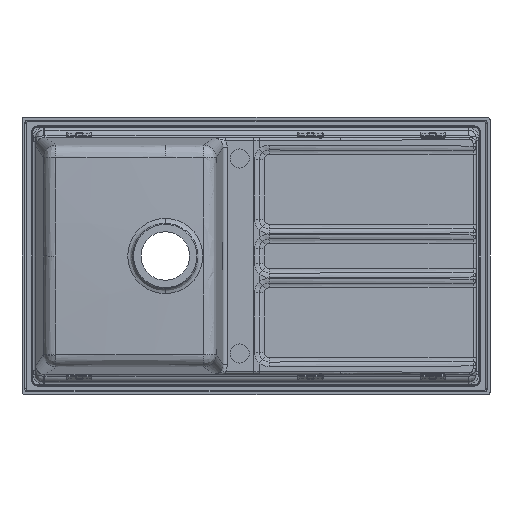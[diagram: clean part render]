
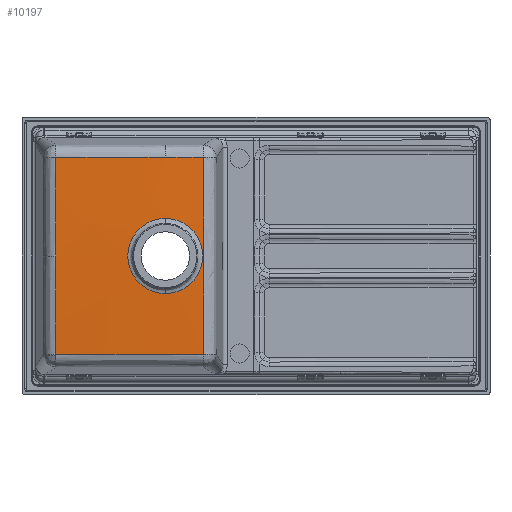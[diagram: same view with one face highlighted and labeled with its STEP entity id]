
A CAD part, front view. The second image highlights one B-rep face of the part: STEP entity #10197.
In plain terms, the highlighted free-form (B-spline) face has degree [3, 3] with [4, 4] control points.
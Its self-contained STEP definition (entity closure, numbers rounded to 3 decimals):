
#559 = DIRECTION ( 'NONE',  ( 0., -0.996, -0.087 ) ) ;
#820 = CARTESIAN_POINT ( 'NONE',  ( -166.741, 4557.752, 597.198 ) ) ;
#1291 = CARTESIAN_POINT ( 'NONE',  ( -186.897, -200.693, 99.171 ) ) ;
#2179 = ORIENTED_EDGE ( 'NONE', *, *, #11137, .T. ) ;
#2420 = EDGE_CURVE ( 'NONE', #21502, #11121, #18676, .T. ) ;
#2446 = AXIS2_PLACEMENT_3D ( 'NONE', #7924, #29463, #25844 ) ;
#3409 = DIRECTION ( 'NONE',  ( 0.996, 0.087, 0. ) ) ;
#3630 = DIRECTION ( 'NONE',  ( 0., -0.996, -0.087 ) ) ;
#4358 = CARTESIAN_POINT ( 'NONE',  ( -416.37, -193.154, 26.613 ) ) ;
#4870 = CARTESIAN_POINT ( 'NONE',  ( -368.39, -190.328, 181.795 ) ) ;
#4964 = CARTESIAN_POINT ( 'NONE',  ( -96.061, -194.054, 181.469 ) ) ;
#5721 = ORIENTED_EDGE ( 'NONE', *, *, #2420, .F. ) ;
#6322 = AXIS2_PLACEMENT_3D ( 'NONE', #39800, #30560, #18042 ) ;
#6492 = AXIS2_PLACEMENT_3D ( 'NONE', #820, #34405, #3630 ) ;
#6522 =( BOUNDED_SURFACE ( )  B_SPLINE_SURFACE ( 3, 3, ( 
 ( #34893, #7462, #10802, #35005 ),
 ( #10407, #1291, #29115, #10674 ),
 ( #31825, #22791, #25765, #19687 ),
 ( #16892, #4358, #32341, #28990 ) ),
 .UNSPECIFIED., .F., .F., .F. ) 
 B_SPLINE_SURFACE_WITH_KNOTS ( ( 4, 4 ),
 ( 4, 4 ),
 ( 0., 1. ),
 ( 0., 1. ),
 .UNSPECIFIED. ) 
 GEOMETRIC_REPRESENTATION_ITEM ( )  RATIONAL_B_SPLINE_SURFACE ( (
 ( 1., 0.995, 0.995, 1.),
 ( 1., 0.994, 0.994, 1.),
 ( 1., 0.994, 0.994, 1.),
 ( 1., 0.995, 0.995, 1.) ) ) 
 REPRESENTATION_ITEM ( '' )  SURFACE ( )  );
#6572 = DIRECTION ( 'NONE',  ( 0., 0.087, -0.996 ) ) ;
#6838 = CIRCLE ( 'NONE', #6322, 68.956 ) ;
#7226 = EDGE_LOOP ( 'NONE', ( #5721, #26863, #26715, #2179, #28137, #15169 ) ) ;
#7416 = ORIENTED_EDGE ( 'NONE', *, *, #24349, .T. ) ;
#7462 = CARTESIAN_POINT ( 'NONE',  ( -72.093, -197.721, 135.324 ) ) ;
#7924 = CARTESIAN_POINT ( 'NONE',  ( -783.642, 4556.028, 0. ) ) ;
#8061 = AXIS2_PLACEMENT_3D ( 'NONE', #38788, #32092, #13910 ) ;
#9462 = DIRECTION ( 'NONE',  ( 0.087, -0.996, 0. ) ) ;
#10197 = ADVANCED_FACE ( 'NONE', ( #34899, #35340 ), #6522, .T. ) ;
#10407 = CARTESIAN_POINT ( 'NONE',  ( -242.114, -193.13, 235.653 ) ) ;
#10562 = EDGE_CURVE ( 'NONE', #29780, #26386, #32467, .T. ) ;
#10674 = CARTESIAN_POINT ( 'NONE',  ( -126.369, -195.624, -188.744 ) ) ;
#10802 = CARTESIAN_POINT ( 'NONE',  ( -30.837, -198.61, -15.947 ) ) ;
#11121 = VERTEX_POINT ( 'NONE', #27765 ) ;
#11137 = EDGE_CURVE ( 'NONE', #34826, #29780, #14175, .T. ) ;
#11833 = EDGE_LOOP ( 'NONE', ( #15305, #7416 ) ) ;
#13460 = CARTESIAN_POINT ( 'NONE',  ( 320.51, 4567.371, 0. ) ) ;
#13864 = VERTEX_POINT ( 'NONE', #29470 ) ;
#13910 = DIRECTION ( 'NONE',  ( 0., 0.996, -0.087 ) ) ;
#14175 = CIRCLE ( 'NONE', #28256, 4767.954 ) ;
#14425 = DIRECTION ( 'NONE',  ( 0., 0., 1. ) ) ;
#15169 = ORIENTED_EDGE ( 'NONE', *, *, #17322, .T. ) ;
#15305 = ORIENTED_EDGE ( 'NONE', *, *, #19139, .T. ) ;
#16441 = VERTEX_POINT ( 'NONE', #26317 ) ;
#16892 = CARTESIAN_POINT ( 'NONE',  ( -464.409, -186.575, 145.355 ) ) ;
#17322 = EDGE_CURVE ( 'NONE', #26386, #11121, #22114, .T. ) ;
#17783 = DIRECTION ( 'NONE',  ( 0., 1., 0. ) ) ;
#18042 = DIRECTION ( 'NONE',  ( 0., 0., 1. ) ) ;
#18676 = CIRCLE ( 'NONE', #30689, 4783.057 ) ;
#18866 = AXIS2_PLACEMENT_3D ( 'NONE', #25290, #6572, #559 ) ;
#19139 = EDGE_CURVE ( 'NONE', #26381, #16441, #20611, .T. ) ;
#19687 = CARTESIAN_POINT ( 'NONE',  ( -245.089, -194.428, -206.411 ) ) ;
#20463 = AXIS2_PLACEMENT_3D ( 'NONE', #32847, #17783, #14425 ) ;
#20611 = CIRCLE ( 'NONE', #20463, 68.956 ) ;
#21502 = VERTEX_POINT ( 'NONE', #4964 ) ;
#22114 = CIRCLE ( 'NONE', #8061, 4770.481 ) ;
#22202 = DIRECTION ( 'NONE',  ( 0.996, -0.087, 0. ) ) ;
#22511 = CIRCLE ( 'NONE', #18866, 4770.481 ) ;
#22791 = CARTESIAN_POINT ( 'NONE',  ( -301.71, -199.17, 62.917 ) ) ;
#24349 = EDGE_CURVE ( 'NONE', #16441, #26381, #6838, .T. ) ;
#24898 = CIRCLE ( 'NONE', #6492, 4770.481 ) ;
#25290 = CARTESIAN_POINT ( 'NONE',  ( -166.741, 4557.752, 597.198 ) ) ;
#25765 = CARTESIAN_POINT ( 'NONE',  ( -265.425, -199.952, -70.126 ) ) ;
#25844 = DIRECTION ( 'NONE',  ( 0.087, -0.996, 0. ) ) ;
#26317 = CARTESIAN_POINT ( 'NONE',  ( -166.741, -197.505, -68.956 ) ) ;
#26381 = VERTEX_POINT ( 'NONE', #28653 ) ;
#26386 = VERTEX_POINT ( 'NONE', #33761 ) ;
#26715 = ORIENTED_EDGE ( 'NONE', *, *, #30656, .T. ) ;
#26863 = ORIENTED_EDGE ( 'NONE', *, *, #30554, .T. ) ;
#27765 = CARTESIAN_POINT ( 'NONE',  ( -96.061, -194.054, -181.469 ) ) ;
#28033 = CARTESIAN_POINT ( 'NONE',  ( -783.642, 4556.028, 0. ) ) ;
#28137 = ORIENTED_EDGE ( 'NONE', *, *, #10562, .T. ) ;
#28256 = AXIS2_PLACEMENT_3D ( 'NONE', #28033, #3409, #9462 ) ;
#28543 = DIRECTION ( 'NONE',  ( 0.087, 0.996, 0. ) ) ;
#28653 = CARTESIAN_POINT ( 'NONE',  ( -166.741, -197.505, 68.956 ) ) ;
#28990 = CARTESIAN_POINT ( 'NONE',  ( -363.708, -188.744, -223.881 ) ) ;
#29115 = CARTESIAN_POINT ( 'NONE',  ( -148.109, -201.528, -43.054 ) ) ;
#29463 = DIRECTION ( 'NONE',  ( 0.996, 0.087, 0. ) ) ;
#29470 = CARTESIAN_POINT ( 'NONE',  ( -166.741, -194.576, 181.423 ) ) ;
#29780 = VERTEX_POINT ( 'NONE', #37608 ) ;
#30554 = EDGE_CURVE ( 'NONE', #21502, #13864, #24898, .T. ) ;
#30560 = DIRECTION ( 'NONE',  ( 0., 1., 0. ) ) ;
#30656 = EDGE_CURVE ( 'NONE', #13864, #34826, #22511, .T. ) ;
#30689 = AXIS2_PLACEMENT_3D ( 'NONE', #13460, #22202, #28543 ) ;
#31825 = CARTESIAN_POINT ( 'NONE',  ( -353.362, -192.095, 190.588 ) ) ;
#32092 = DIRECTION ( 'NONE',  ( 0., 0.087, 0.996 ) ) ;
#32341 = CARTESIAN_POINT ( 'NONE',  ( -382.622, -193.881, -97.127 ) ) ;
#32467 = CIRCLE ( 'NONE', #2446, 4767.954 ) ;
#32847 = CARTESIAN_POINT ( 'NONE',  ( -166.741, -197.505, 0. ) ) ;
#33761 = CARTESIAN_POINT ( 'NONE',  ( -368.39, -190.328, -181.795 ) ) ;
#34405 = DIRECTION ( 'NONE',  ( 0., 0.087, -0.996 ) ) ;
#34826 = VERTEX_POINT ( 'NONE', #4870 ) ;
#34893 = CARTESIAN_POINT ( 'NONE',  ( -130.822, -189.677, 280.487 ) ) ;
#34899 = FACE_OUTER_BOUND ( 'NONE', #7226, .T. ) ;
#35005 = CARTESIAN_POINT ( 'NONE',  ( -7.714, -192.329, -170.905 ) ) ;
#35340 = FACE_BOUND ( 'NONE', #11833, .T. ) ;
#37608 = CARTESIAN_POINT ( 'NONE',  ( -368.088, -193.782, 0. ) ) ;
#38788 = CARTESIAN_POINT ( 'NONE',  ( -166.741, 4557.752, -597.198 ) ) ;
#39800 = CARTESIAN_POINT ( 'NONE',  ( -166.741, -197.505, 0. ) ) ;
